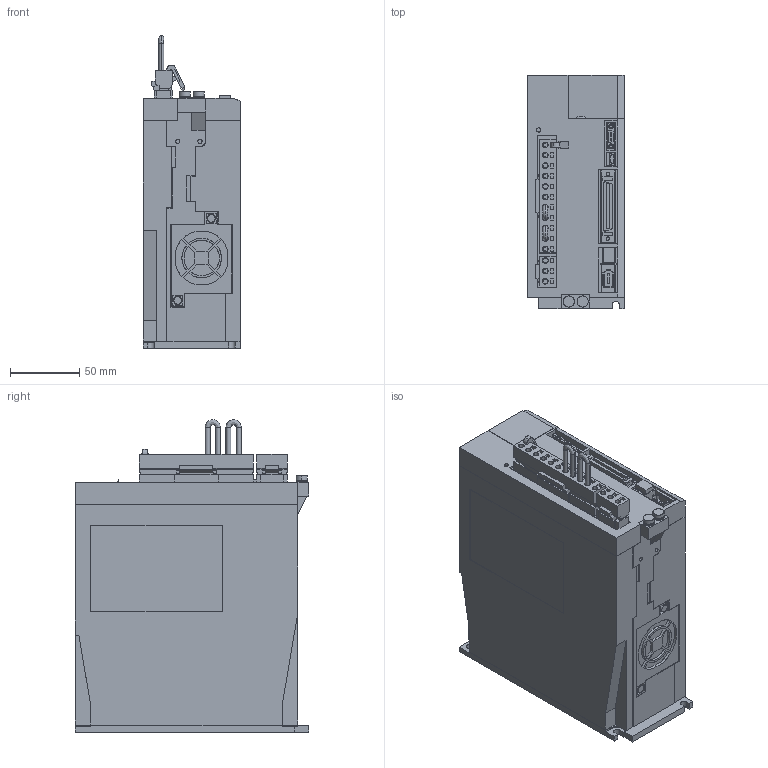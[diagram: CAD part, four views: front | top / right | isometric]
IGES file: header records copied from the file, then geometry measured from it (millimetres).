
Start section: SolidWorks IGES file using analytic representation for surfaces
Global section: file name: D:\YASKAWA\sgd7s_7r6a00a.IGS; native system: SolidWorks 2006 by SolidWorks Corporation; preprocessor: SolidWorks 2006 by SolidWorks Corporation; author: yamanouchi; date: 140306.133103; units: millimetre
Bounding box: 70.5 x 168 x 225 mm (x, y, z)
Surface area: 152137 mm2 (no closed solid volume)
Topology: 0 solids, 0 shells, 1739 faces, 14630 edges, 14630 vertices
Faces by surface type: bspline 1466, revolution 273
